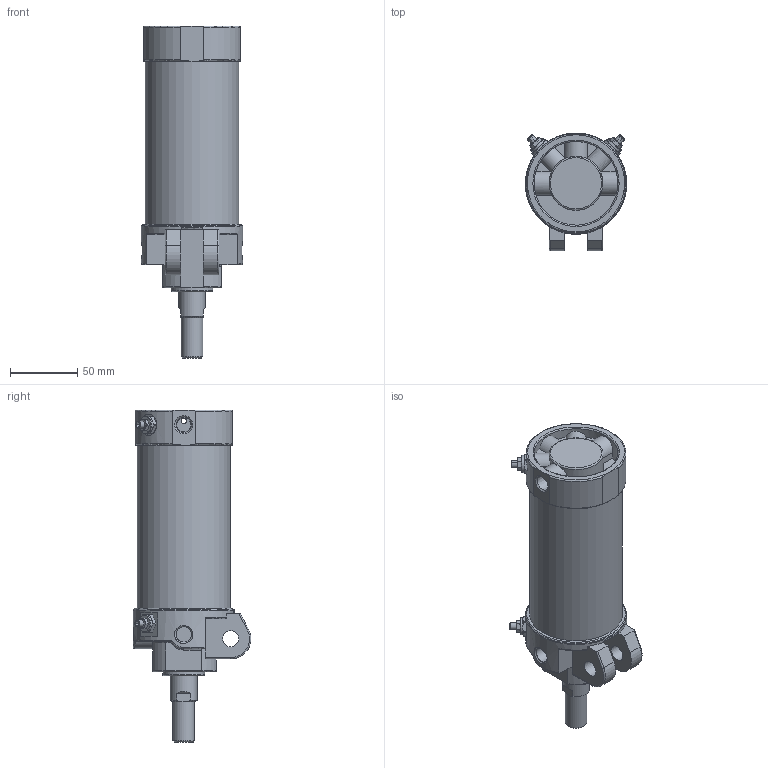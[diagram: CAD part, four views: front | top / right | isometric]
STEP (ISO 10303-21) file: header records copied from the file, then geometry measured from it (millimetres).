
FILE_DESCRIPTION((''),'2;1');
FILE_NAME('I:\3D電子目錄\氣缸\DCK\DCK\DCK-1A-63x75.stp','2008-02-26T15:11:29',('Administrator'),(''),'Autodesk Inventor 11','Autodesk Inventor 11','');
FILE_SCHEMA(('AUTOMOTIVE_DESIGN { 1 0 10303 214 1 1 1 1 }'));
Length unit declared in the file: millimetre
Products named in the file (6): DCK-1A-63; 緩衝針; 緩衝針-1; 緩衝針-201; 緩衝針-3
Assembly tree (8 placements, depth 3):
  DCK-1A-63
    DCK-1A-63
    緩衝針  x4
      緩衝針-1
      緩衝針-201
      緩衝針-3
Bounding box: 75 x 87.29 x 246 mm (x, y, z)
Volume: 333768.5 mm3; surface area: 125588.8 mm2
Topology: 16 solids, 16 shells, 590 faces, 1297 edges, 807 vertices
Faces by surface type: plane 219, cylinder 167, cone 131, torus 42, bspline 31
Full cylindrical faces by diameter (mm): 2 x1, 3 x2, 3.8 x2, 4 x6, 4.6 x4, 5 x8, 5.1 x4, 5.2 x12, 5.5 x4, 7 x1, 7.25 x1, 7.9 x4, 8 x2, 11.3 x3, 12 x2, 12.8 x4, 16 x2, 20 x1, 21 x1, 22 x2, 23 x1, 24.7 x1, 26 x1, 27 x1, 28 x1, 29 x1, 31 x1, 33 x1, 62 x1, 62.7 x1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
Entity records: 12413 total; most frequent: CARTESIAN_POINT 5248, DIRECTION 1447, ORIENTED_EDGE 1314, EDGE_CURVE 657, AXIS2_PLACEMENT_3D 630, EDGE_LOOP 509, VERTEX_POINT 472, FACE_OUTER_BOUND 341
